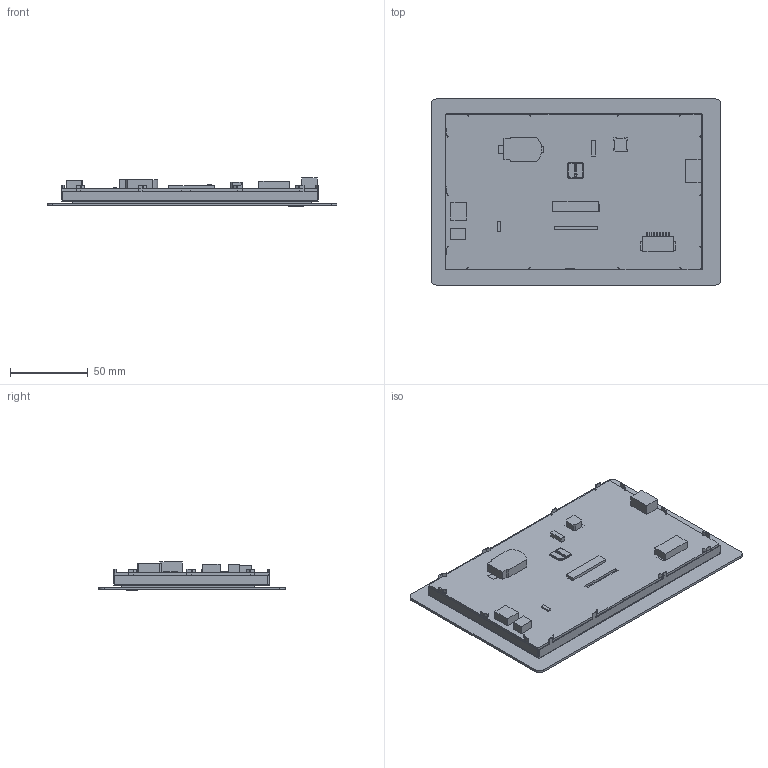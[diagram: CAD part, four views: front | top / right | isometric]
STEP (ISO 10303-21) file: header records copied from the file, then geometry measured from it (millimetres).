
FILE_DESCRIPTION(/* description */ (''),/* implementation_level */ '2;1');
FILE_NAME(/* name */ '',/* time_stamp */ '2023-08-16T14:34:20+08:00',/* author */ (''),/* organization */ (''),/* preprocessor_version */ 'ST-DEVELOPER v11',/* originating_system */ 'SIEMENS PLM Software NX 7.5',/* authorisation */ '');
FILE_SCHEMA (('AP203_CONFIGURATION_CONTROLLED_3D_DESIGN_OF_MECHANICAL_PARTS_AND_ASSEMBLIES_MIM_LF'));
Length unit declared in the file: millimetre
Products named in the file (1): 3D-SDWb070U74CG
Bounding box: 187 x 120 x 18.1 mm (x, y, z)
Volume: 202200.6 mm3; surface area: 154929.6 mm2
Topology: 18 solids, 18 shells, 1404 faces, 4008 edges, 2655 vertices
Faces by surface type: plane 1210, cylinder 185, bspline 7, extrusion 2
Entity records: 46592 total; most frequent: CARTESIAN_POINT 8635, ORIENTED_EDGE 8016, DIRECTION 7066, EDGE_CURVE 4008, VECTOR 3584, LINE 3582, VERTEX_POINT 2655, AXIS2_PLACEMENT_3D 1741
